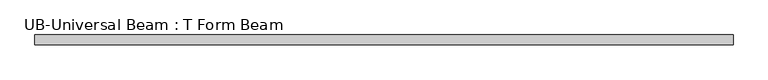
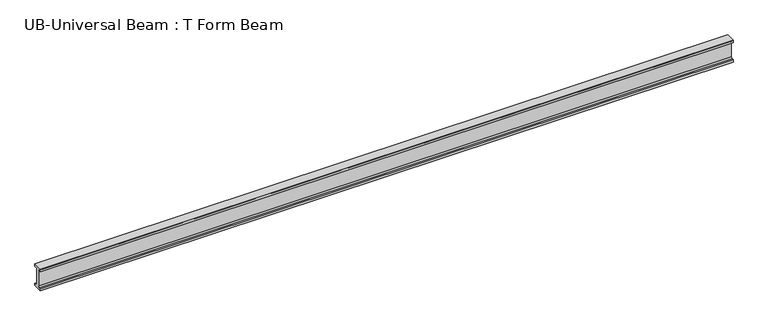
"""IFC4 building model written with IfcOpenShell, lengths in millimetres: beam geometry, UB-Universal Beam : T Form Beam."""

from ifc_helpers import new_model, si_unit, point, frame, frame_2d, origin, place, context, project, spatial, polyline, circle_curve, trimmed, segment, composite_curve, outline, extrude, source, transform, mapped, element, save


def ub_universal_beam_t_form_beam_dafdc614(model_context):
    return source(origin(), model_context, "Body", "SweptSolid", [
        extrude(outline(composite_curve([segment(polyline([(101.6, -190.5), (101.6, -241.3), (-101.6, -241.3), (-101.6, -190.5), (-63.5, -190.5)]), True, "CONTINUOUS"), segment(trimmed(circle_curve(frame_2d((-63.5, -165.1)), 25.4), [point((-63.5, -190.5))], [point((-38.1, -165.1))], True, "CARTESIAN"), True, "CONTINUOUS"), segment(polyline([(-38.1, -165.1), (-38.1, 165.1)]), True, "CONTINUOUS"), segment(trimmed(circle_curve(frame_2d((-63.5, 165.1)), 25.4), [point((-38.1, 165.1))], [point((-63.5, 190.5))], True, "CARTESIAN"), True, "CONTINUOUS"), segment(polyline([(-63.5, 190.5), (-101.6, 190.5), (-101.6, 241.3), (101.6, 241.3), (101.6, 190.5), (63.5, 190.5)]), True, "CONTINUOUS"), segment(trimmed(circle_curve(frame_2d((63.5, 165.1)), 25.4), [point((63.5, 190.5))], [point((38.1, 165.1))], True, "CARTESIAN"), True, "CONTINUOUS"), segment(polyline([(38.1, 165.1), (38.1, -165.1)]), True, "CONTINUOUS"), segment(trimmed(circle_curve(frame_2d((63.5, -165.1)), 25.4), [point((38.1, -165.1))], [point((63.5, -190.5))], True, "CARTESIAN"), True, "CONTINUOUS"), segment(polyline([(63.5, -190.5), (101.6, -190.5)]), True, "CONTINUOUS")], self_intersect=False)), frame((-7267.575, 0.0, 0.0), z_axis=(1.0, 0.0, 0.0), x_axis=(0.0, 1.0, 0.0)), (0.0, 0.0, 1.0), 14624.05),
    ])


if __name__ == "__main__":
    model = new_model("IFC4")
    model_context = context("Model", 3, world=origin())
    ifc_project = project(units=[si_unit("LENGTHUNIT", "METRE", prefix="MILLI")], contexts=[model_context])
    site = spatial("IfcSite", under=ifc_project)
    building = spatial("IfcBuilding", under=site)
    placement = place(None, origin())
    ub_universal_beam_t_form_beam_shape = ub_universal_beam_t_form_beam_dafdc614(model_context)
    element("IfcBeam", 1, ObjectType="UB-Universal Beam : T Form Beam", at=placement, inside=building, context=model_context, shape_type="MappedRepresentation", body=[
        mapped(ub_universal_beam_t_form_beam_shape, transform((0.0, 0.0, 0.0), x_axis=(1.0, 0.0, 0.0), y_axis=(0.0, 1.0, 0.0), z_axis=(0.0, 0.0, 1.0))),
    ])
    save(model, "model.ifc")
